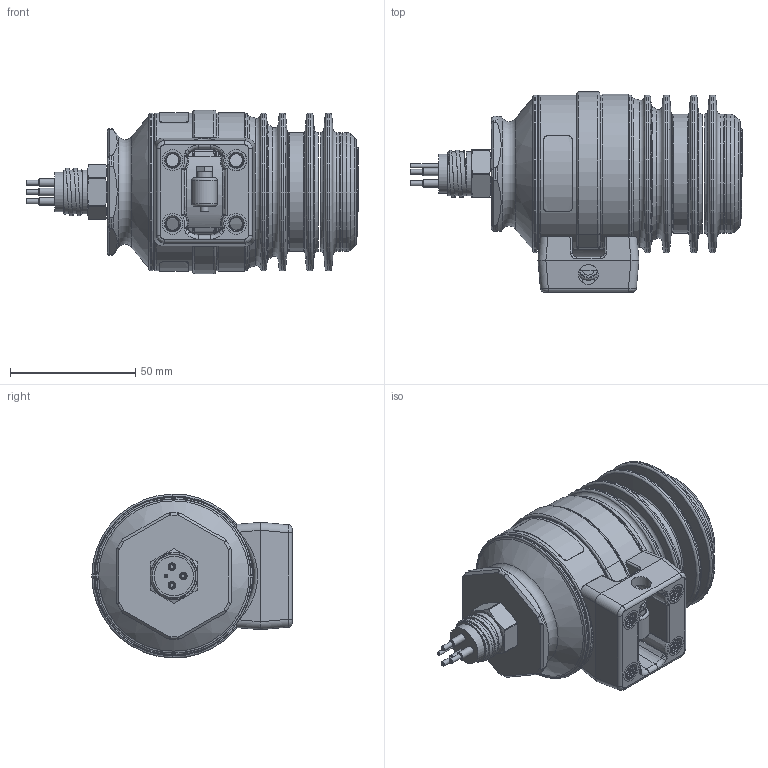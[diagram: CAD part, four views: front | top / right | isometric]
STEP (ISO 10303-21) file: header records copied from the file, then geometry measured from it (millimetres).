
FILE_DESCRIPTION (( 'STEP AP214' ), '1' );
FILE_NAME ('LSL-SPT-ALTI-A-B-SB-MCBH3-0B_20171107a.STEP', '2017-11-07T23:32:21', ( '' ), ( '' ), 'SwSTEP 2.0', 'SolidWorks 2017', '' );
FILE_SCHEMA (( 'AUTOMOTIVE_DESIGN' ));
Length unit declared in the file: millimetre
Products named in the file (1): LSL-SPT-ALTI-A-B-SB-MCBH3-0B_20171107a
Bounding box: 132.68 x 80 x 65.49 mm (x, y, z)
Surface area: 45385.2 mm2 (no closed solid volume)
Topology: 0 solids, 19 shells, 413 faces, 1123 edges, 719 vertices
Faces by surface type: cylinder 148, plane 84, torus 72, bspline 65, cone 41, sphere 3
Full cylindrical faces by diameter (mm): 1.524 x1, 1.943 x3, 3.048 x3, 3.454 x1, 5.105 x52, 6.35 x1, 7.938 x1, 15.748 x1, 17.475 x1, 36 x1, 38.5 x1, 47.5 x3, 62.23 x1, 62.992 x7
Entity records: 28857 total; most frequent: CARTESIAN_POINT 17160, DIRECTION 1499, ORIENTED_EDGE 1444, EDGE_CURVE 857, AXIS2_PLACEMENT_3D 642, VERTEX_POINT 609, EDGE_LOOP 484, FACE_OUTER_BOUND 430
